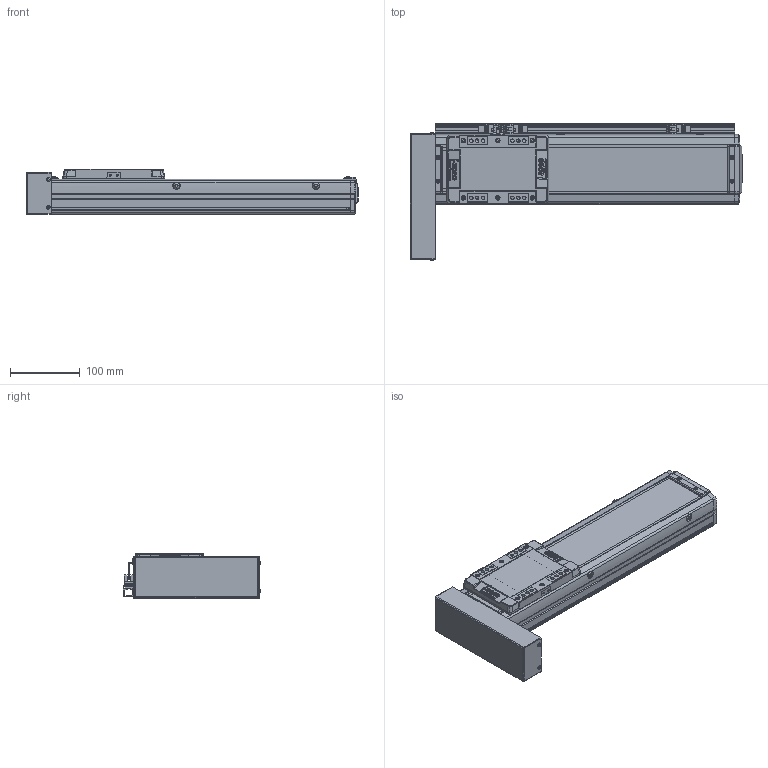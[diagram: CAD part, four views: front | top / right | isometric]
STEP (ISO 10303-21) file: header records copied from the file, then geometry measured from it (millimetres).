
FILE_DESCRIPTION(('STEP AP214'),'1');
FILE_NAME('Z:/Web/3D/SAN100/SAN100 양산용 (STEP)/SAN100ㅁㅁ-250PR+3SL.stp','2013-04-25T04:12:47',(' '),(' '),'Spatial InterOp 3D',' ',' ');
FILE_SCHEMA(('automotive_design'));
Length unit declared in the file: millimetre
Products named in the file (49): SUS COVER; SFX-SAN100; RRCV-SAN100; 스크루 : Round - M4.0 x 10.0; M3.0 x 6.0; 스크루 : Round - M3.0 x 6.0; FRBL-SAN100; SLBL-SAN100; SLCV-SAN100; 스크루 : Countersunk - M3.0 x 6.0; BASE; 스크루 : Round - M5.0 x 6.0; BTCV-SAN65; BHCS M3 X 6L; SGD-SAN100; SRL-16x17-380L; EE-SX674; SBK-SX674-352
Bounding box: 476.5 x 197.06 x 66 mm (x, y, z)
Volume: 1717485.4 mm3; surface area: 441593 mm2
Topology: 49 solids, 50 shells, 2329 faces, 6060 edges, 3929 vertices
Faces by surface type: plane 1278, cylinder 771, cone 182, sphere 64, torus 18, bspline 16
Entity records: 91740 total; most frequent: CARTESIAN_POINT 13613, DIRECTION 12747, ORIENTED_EDGE 11964, EDGE_CURVE 5982, AXIS2_PLACEMENT_3D 4484, VERTEX_POINT 3929, LINE 3779, VECTOR 3779
